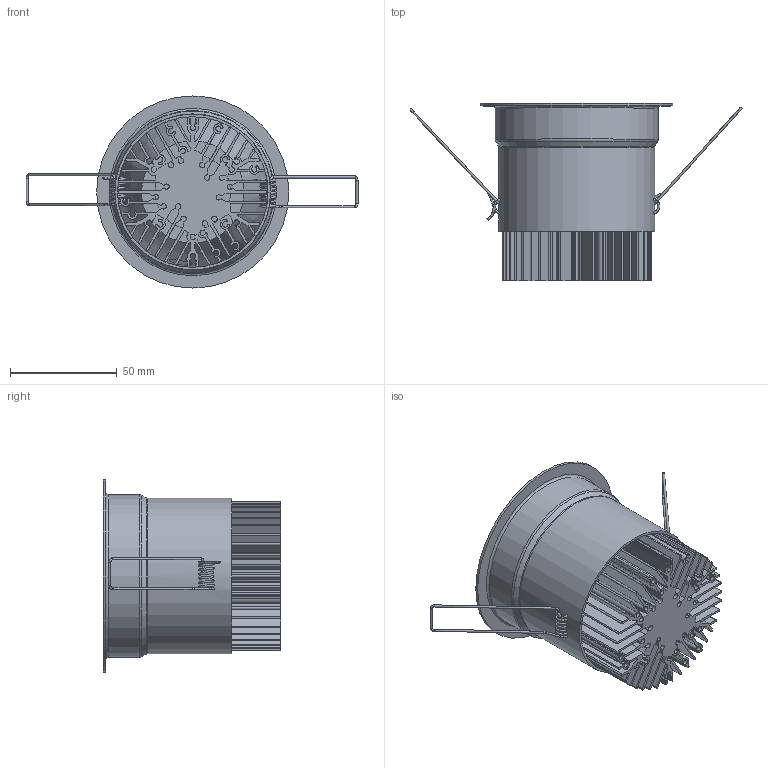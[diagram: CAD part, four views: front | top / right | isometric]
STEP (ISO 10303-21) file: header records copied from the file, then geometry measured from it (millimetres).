
FILE_DESCRIPTION(/* description */ (''),/* implementation_level */ '2;1');
FILE_NAME(/* name */ 'ZETA_MAXI_ZMX1.stp',/* time_stamp */ '2025-09-23T15:50:41+02:00',/* author */ ('gian.noche'),/* organization */ (''),/* preprocessor_version */ 'ST-DEVELOPER v19.2',/* originating_system */ 'Autodesk Inventor 2023',/* authorisation */ '');
FILE_SCHEMA (('AUTOMOTIVE_DESIGN { 1 0 10303 214 3 1 1 }'));
Length unit declared in the file: millimetre
Products named in the file (1): ZETA-MAXI_Semplifica_1
Bounding box: 155.48 x 83 x 90 mm (x, y, z)
Volume: 88155.5 mm3; surface area: 99470 mm2
Topology: 1 solids, 1 shells, 1412 faces, 3473 edges, 2071 vertices
Faces by surface type: plane 1044, cylinder 284, bspline 68, torus 10, cone 6
Full cylindrical faces by diameter (mm): 1 x4, 35.3 x2, 48 x1, 70.5 x1, 72.9 x1, 74 x2, 76.4 x1, 90 x1
Entity records: 50919 total; most frequent: CARTESIAN_POINT 17825, ORIENTED_EDGE 6946, DIRECTION 6690, EDGE_CURVE 3473, LINE 2586, VECTOR 2586, VERTEX_POINT 2071, AXIS2_PLACEMENT_3D 2052
